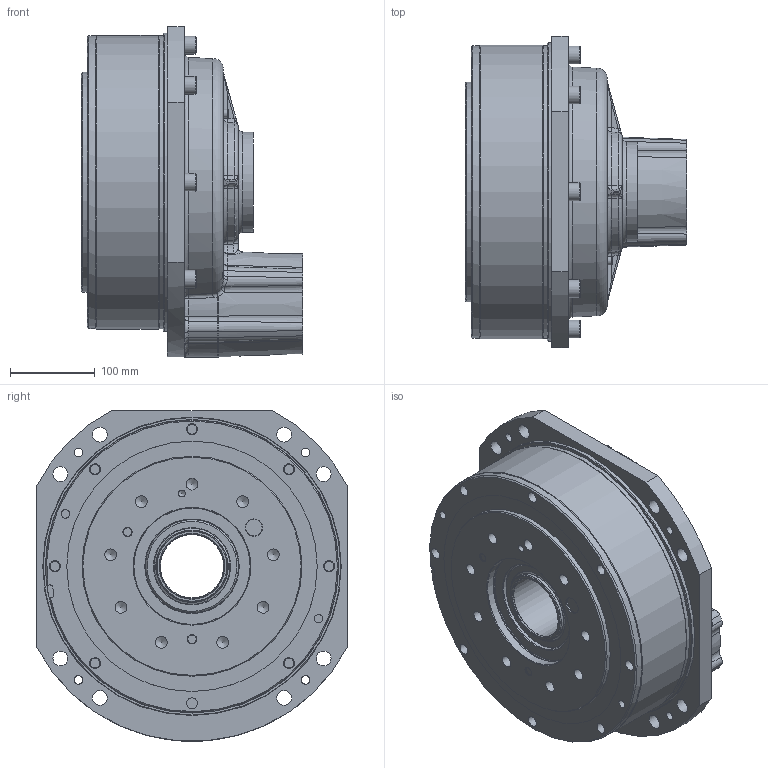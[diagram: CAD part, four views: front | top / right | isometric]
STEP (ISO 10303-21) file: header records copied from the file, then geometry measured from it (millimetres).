
FILE_DESCRIPTION((''),'2;1');
FILE_NAME('M:\Nabtesco\RD-Series\RD Mounting Files\RD-200C\RD-200C.stp','2007-06-08T17:11:42',('tharrison'),(''),'Autodesk Inventor 11','Autodesk Inventor 11','');
FILE_SCHEMA(('AUTOMOTIVE_DESIGN { 1 0 10303 214 1 1 1 1 }'));
Length unit declared in the file: millimetre
Products named in the file (9): RD-200C; RD-200C-001; RD-200C-003; RD-200C-002; RD-200C-004; RD-200C-005; RD-200C-006; ISO 4762  M14 x 100; ISO 4762  M6 x 10
Assembly tree (14 placements, depth 2):
  RD-200C
    RD-200C-001
    RD-200C-003
    RD-200C-002
    RD-200C-004
    RD-200C-005
    RD-200C-006
    ISO 4762  M14 x 100  x7
    ISO 4762  M6 x 10
Bounding box: 261.99 x 368 x 391 mm (x, y, z)
Volume: 15477262.8 mm3; surface area: 961302.6 mm2
Topology: 14 solids, 14 shells, 548 faces, 1227 edges, 739 vertices
Faces by surface type: bspline 198, plane 134, cylinder 92, cone 89, torus 35
Full cylindrical faces by diameter (mm): 6 x1, 10 x1, 14 x7, 21 x7, 23.9 x1, 24.75 x1, 25 x1, 37 x1, 50 x2, 58.4 x1, 66 x1, 70.8 x1, 72 x2, 75 x1, 85 x2, 87 x1, 88 x1, 88.75 x1, 89 x1, 90 x1, 91.25 x1, 93.75 x1, 95 x3, 100 x1, 105 x1, 106 x1, 110 x1, 111.65 x1, 138 x1, 139 x1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
Entity records: 34943 total; most frequent: CARTESIAN_POINT 25880, DIRECTION 1771, ORIENTED_EDGE 1612, AXIS2_PLACEMENT_3D 824, EDGE_CURVE 806, EDGE_LOOP 745, VERTEX_POINT 571, CIRCLE 523
